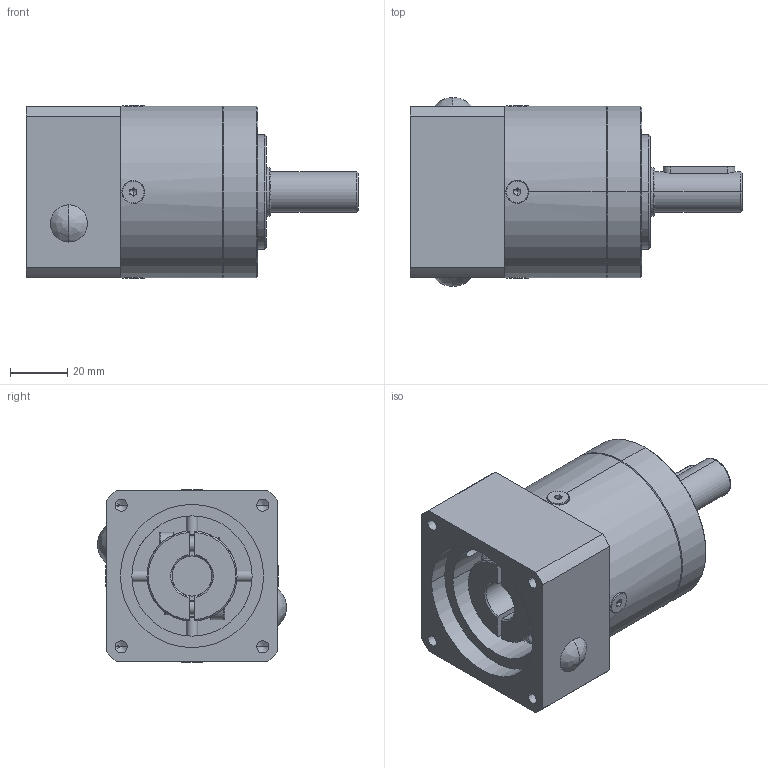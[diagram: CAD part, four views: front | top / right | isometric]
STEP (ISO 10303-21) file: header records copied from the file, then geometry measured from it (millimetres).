
FILE_DESCRIPTION (( 'STEP AP214' ), '1' );
FILE_NAME ('PLE-060-L1-S2-P2 14-50-70-M5.STEP', '2023-08-21T02:42:48', ( '微软用户' ), ( '微软中国' ), 'SwSTEP 2.0', 'SolidWorks 2018', '' );
FILE_SCHEMA (( 'AUTOMOTIVE_DESIGN' ));
Length unit declared in the file: millimetre
Products named in the file (8): PLE-060一级内齿圈-外形; PLE-060-L1-S2-P2 14-50-70-M5; hexagon socket countersunk head screws gb_GB_FASTENER_SCREWS_HSCHS M4X16-N; PLE-060埴怀堤傷裔-俋倛; hexagon socket head cap screws gb_GB_FASTENER_SCREWS_HSHCS M5X16-N; PLE-060薊粣ん-俋倛14; PLE-060输入端盖-外形50-M5-70; PLE-060黑裔9
Assembly tree (12 placements, depth 2):
  PLE-060-L1-S2-P2 14-50-70-M5
    PLE-060一级内齿圈-外形
    PLE-060埴怀堤傷裔-俋倛
    PLE-060输入端盖-外形50-M5-70
    PLE-060薊粣ん-俋倛14
    hexagon socket head cap screws gb_GB_FASTENER_SCREWS_HSHCS M5X16-N  x2
    PLE-060黑裔9  x2
    hexagon socket countersunk head screws gb_GB_FASTENER_SCREWS_HSCHS M4X16-N  x4
Bounding box: 116 x 66 x 60.36 mm (x, y, z)
Volume: 162468.5 mm3; surface area: 52600.4 mm2
Topology: 12 solids, 12 shells, 380 faces, 914 edges, 551 vertices
Faces by surface type: plane 144, cylinder 125, cone 79, bspline 32
Entity records: 8655 total; most frequent: CARTESIAN_POINT 2437, DIRECTION 1283, ORIENTED_EDGE 1188, EDGE_CURVE 594, AXIS2_PLACEMENT_3D 509, VERTEX_POINT 376, EDGE_LOOP 296, VECTOR 265
